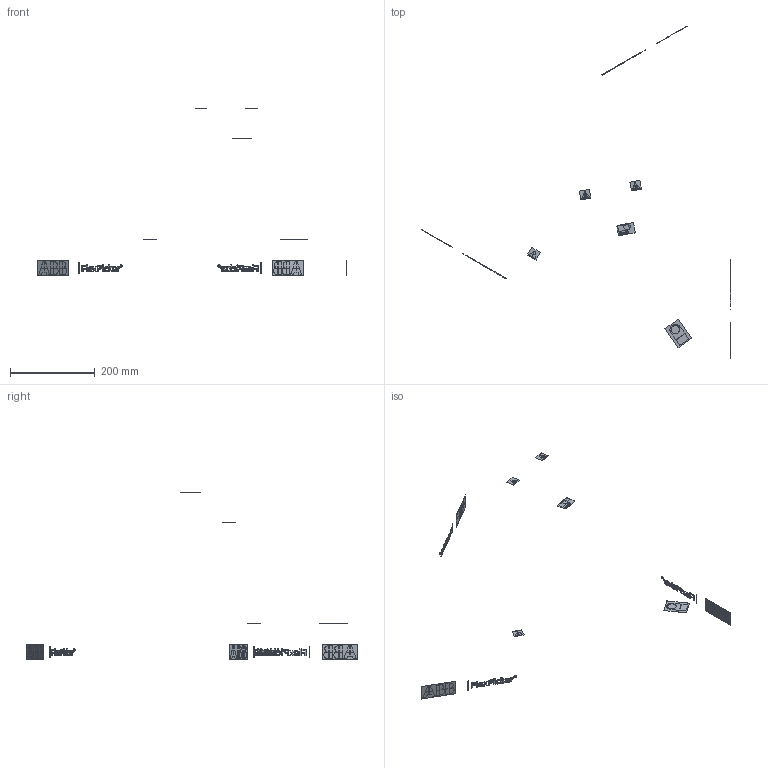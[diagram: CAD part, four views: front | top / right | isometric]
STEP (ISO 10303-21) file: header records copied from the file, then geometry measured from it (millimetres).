
FILE_DESCRIPTION (( 'STEP AP214' ), '1' );
FILE_NAME ('IRB365_1.5-1300_OmniCore_rev00_LABELS_CAD.step', '2025-09-09T11:52:16', ( '' ), ( '' ), 'SwSTEP 2.0', 'SolidWorks 2024', '' );
FILE_SCHEMA (( 'AUTOMOTIVE_DESIGN' ));
Length unit declared in the file: millimetre
Products named in the file (1): IRB365_1.5-1300_OmniCore_rev00_LABELS_CAD
Bounding box: 731.49 x 784.62 x 396.2 mm (x, y, z)
Volume: 4993.7 mm3; surface area: 34589 mm2
Topology: 50 solids, 50 shells, 1102 faces, 2805 edges, 1870 vertices
Faces by surface type: plane 728, bspline 319, cylinder 55
Entity records: 49301 total; most frequent: CARTESIAN_POINT 12147, ORIENTED_EDGE 5610, DIRECTION 3785, EDGE_CURVE 2805, LINE 1997, VECTOR 1997, VERTEX_POINT 1870, EDGE_LOOP 1199
